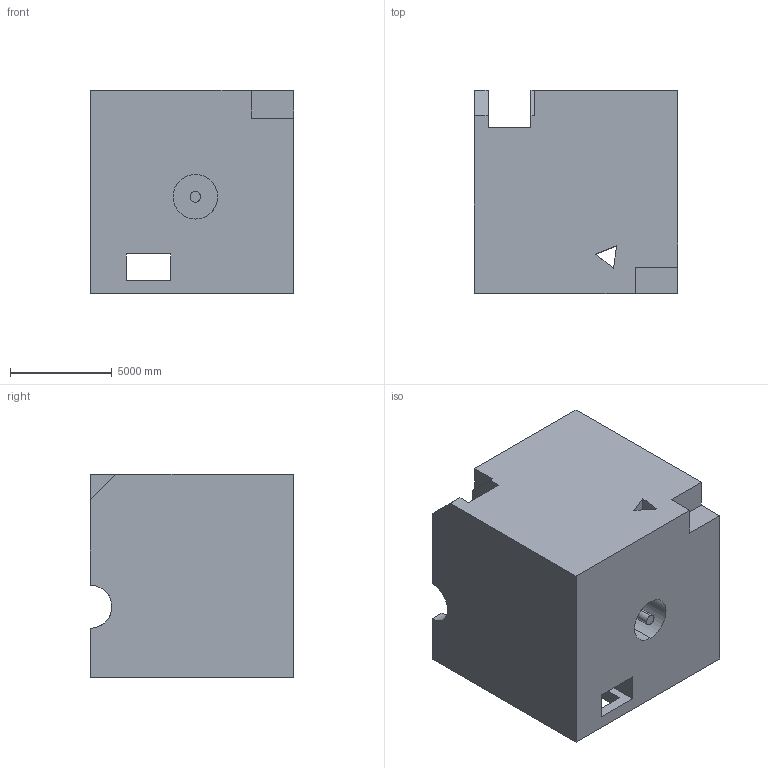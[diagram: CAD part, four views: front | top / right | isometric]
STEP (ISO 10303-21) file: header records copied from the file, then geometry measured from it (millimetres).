
FILE_DESCRIPTION (( 'STEP AP203' ), '1' );
FILE_NAME ('864.STEP', '2022-08-04T16:04:26', ( 'user' ), ( '' ), 'SwSTEP 2.0', 'SolidWorks 2021', '' );
FILE_SCHEMA (( 'CONFIG_CONTROL_DESIGN' ));
Length unit declared in the file: centimetre
Products named in the file (1): 864
Bounding box: 10000 x 10000 x 10000 mm (x, y, z)
Volume: 862179860355 mm3; surface area: 820328283.5 mm2
Topology: 1 solids, 1 shells, 51 faces, 144 edges, 96 vertices
Faces by surface type: plane 45, cylinder 6
Entity records: 1723 total; most frequent: CARTESIAN_POINT 307, ORIENTED_EDGE 288, DIRECTION 255, EDGE_CURVE 144, LINE 127, VECTOR 127, VERTEX_POINT 96, AXIS2_PLACEMENT_3D 64
